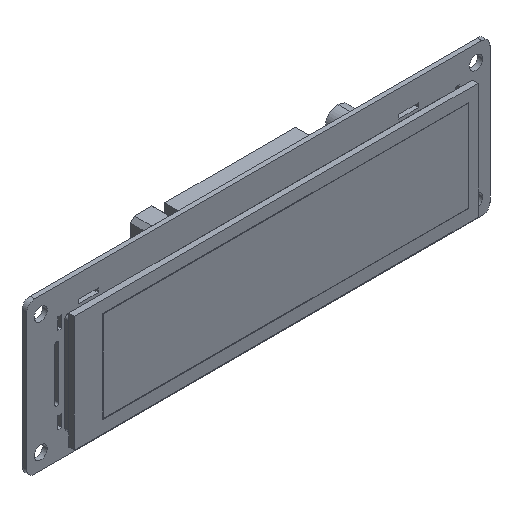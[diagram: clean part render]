
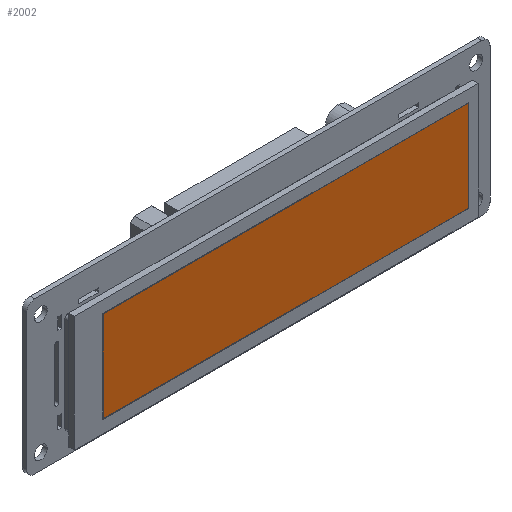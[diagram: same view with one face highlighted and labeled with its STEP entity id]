
A CAD part, isometric view. The second image highlights one B-rep face of the part: STEP entity #2002.
In plain terms, the highlighted planar face has unit normal (0, -1, 0) as drawn and (0, 1, 0) by its records, which use the part's own axes.
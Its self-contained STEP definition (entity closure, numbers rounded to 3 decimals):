
#5 = FACE_OUTER_BOUND ( 'NONE', #3432, .T. ) ;
#35 = DIRECTION ( 'NONE',  ( 0., -1., 0. ) ) ;
#37 = EDGE_CURVE ( 'NONE', #8248, #8729, #8499, .T. ) ;
#380 = VECTOR ( 'NONE', #5873, 1000. ) ;
#996 = CARTESIAN_POINT ( 'NONE',  ( 25.96, 1.28, -98.69 ) ) ;
#1395 = VERTEX_POINT ( 'NONE', #6646 ) ;
#2002 = ADVANCED_FACE ( 'NONE', ( #5 ), #4281, .F. ) ;
#2224 = EDGE_CURVE ( 'NONE', #6226, #8248, #4636, .T. ) ;
#2354 = CARTESIAN_POINT ( 'NONE',  ( 3.1, 1.28, -98.69 ) ) ;
#2479 = DIRECTION ( 'NONE',  ( 0., 0., -1. ) ) ;
#2774 = LINE ( 'NONE', #2354, #380 ) ;
#3432 = EDGE_LOOP ( 'NONE', ( #8540, #7228, #4961, #9943 ) ) ;
#4097 = VECTOR ( 'NONE', #2479, 1000. ) ;
#4281 = PLANE ( 'NONE',  #7402 ) ;
#4343 = VECTOR ( 'NONE', #8482, 1000. ) ;
#4636 = LINE ( 'NONE', #10280, #4343 ) ;
#4830 = LINE ( 'NONE', #6657, #9194 ) ;
#4961 = ORIENTED_EDGE ( 'NONE', *, *, #5497, .T. ) ;
#5497 = EDGE_CURVE ( 'NONE', #1395, #6226, #4830, .T. ) ;
#5873 = DIRECTION ( 'NONE',  ( -1., 0., 0. ) ) ;
#6226 = VERTEX_POINT ( 'NONE', #9173 ) ;
#6322 = DIRECTION ( 'NONE',  ( 0., 0., -1. ) ) ;
#6646 = CARTESIAN_POINT ( 'NONE',  ( 3.1, 1.28, -98.69 ) ) ;
#6657 = CARTESIAN_POINT ( 'NONE',  ( 3.1, 1.28, -7.25 ) ) ;
#7228 = ORIENTED_EDGE ( 'NONE', *, *, #11285, .T. ) ;
#7402 = AXIS2_PLACEMENT_3D ( 'NONE', #11277, #35, #6322 ) ;
#8248 = VERTEX_POINT ( 'NONE', #10804 ) ;
#8482 = DIRECTION ( 'NONE',  ( 1., 0., 0. ) ) ;
#8499 = LINE ( 'NONE', #9516, #4097 ) ;
#8540 = ORIENTED_EDGE ( 'NONE', *, *, #37, .T. ) ;
#8729 = VERTEX_POINT ( 'NONE', #996 ) ;
#9173 = CARTESIAN_POINT ( 'NONE',  ( 3.1, 1.28, -7.25 ) ) ;
#9194 = VECTOR ( 'NONE', #11024, 1000. ) ;
#9516 = CARTESIAN_POINT ( 'NONE',  ( 25.96, 1.28, -98.69 ) ) ;
#9943 = ORIENTED_EDGE ( 'NONE', *, *, #2224, .T. ) ;
#10280 = CARTESIAN_POINT ( 'NONE',  ( 25.96, 1.28, -7.25 ) ) ;
#10804 = CARTESIAN_POINT ( 'NONE',  ( 25.96, 1.28, -7.25 ) ) ;
#11024 = DIRECTION ( 'NONE',  ( 0., 0., 1. ) ) ;
#11277 = CARTESIAN_POINT ( 'NONE',  ( 0., 1.28, 0. ) ) ;
#11285 = EDGE_CURVE ( 'NONE', #8729, #1395, #2774, .T. ) ;
